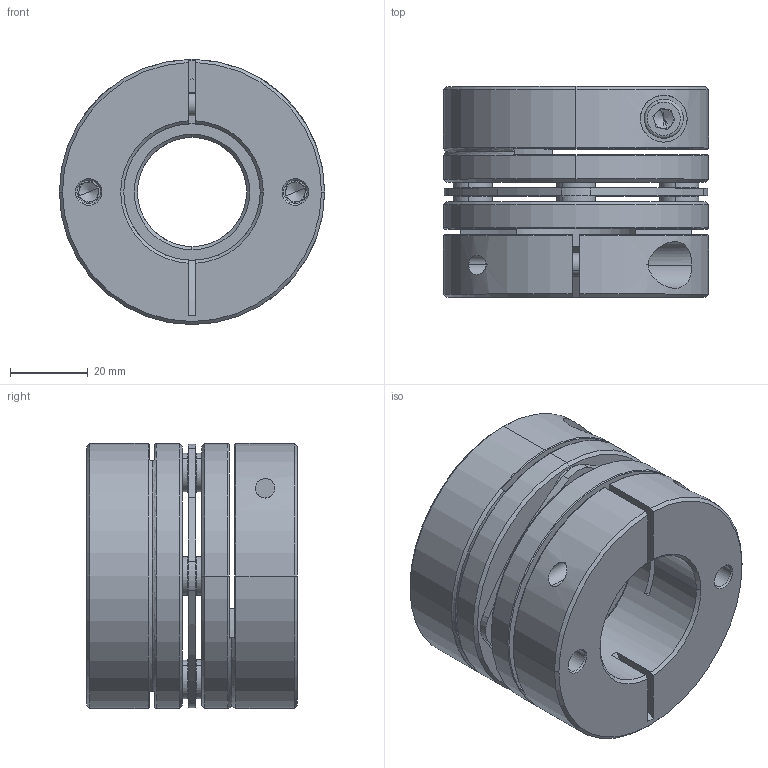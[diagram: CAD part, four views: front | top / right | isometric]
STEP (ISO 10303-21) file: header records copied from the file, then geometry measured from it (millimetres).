
FILE_DESCRIPTION (( 'STEP AP203' ), '1' );
FILE_NAME ('LD1-D68-28-35.STEP', '2021-10-26T08:03:20', ( '' ), ( '' ), 'SwSTEP 2.0', 'SolidWorks 2018', '' );
FILE_SCHEMA (( 'CONFIG_CONTROL_DESIGN' ));
Length unit declared in the file: millimetre
Products named in the file (2): 錨璃101^LD1-D68; LD1-D68-28-35
Assembly tree (1 placements, depth 2):
  LD1-D68-28-35
    錨璃101^LD1-D68
Bounding box: 68 x 54 x 68 mm (x, y, z)
Volume: 129320.6 mm3; surface area: 44683.2 mm2
Topology: 1 solids, 15 shells, 441 faces, 1047 edges, 642 vertices
Faces by surface type: cylinder 161, plane 136, cone 122, torus 22
Entity records: 13321 total; most frequent: CARTESIAN_POINT 2590, DIRECTION 2405, ORIENTED_EDGE 2062, EDGE_CURVE 1031, AXIS2_PLACEMENT_3D 977, VERTEX_POINT 642, CIRCLE 532, EDGE_LOOP 521
